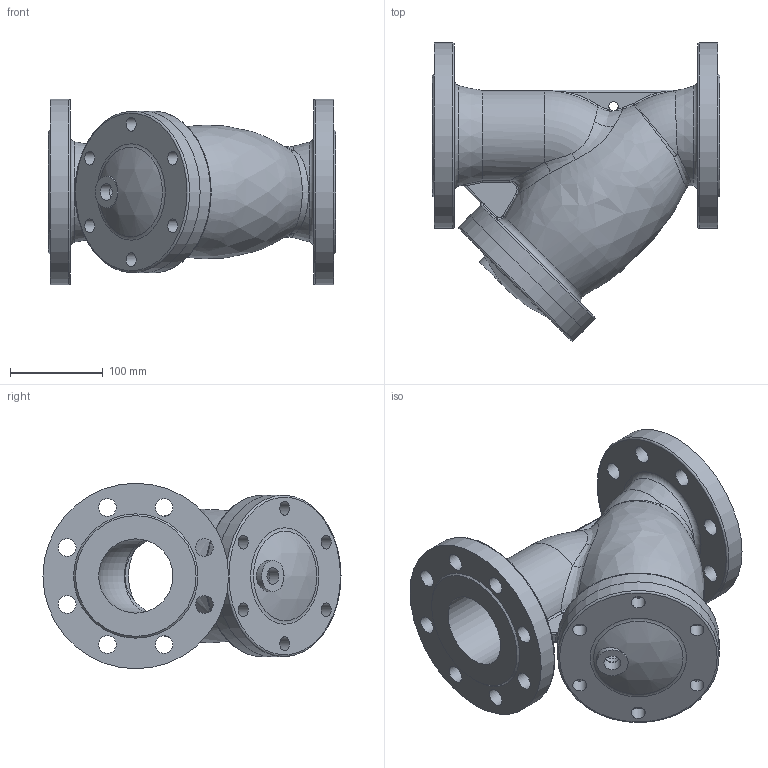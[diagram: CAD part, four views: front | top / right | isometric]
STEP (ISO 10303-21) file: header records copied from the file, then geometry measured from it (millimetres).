
FILE_DESCRIPTION(/* description */ ('STEP AP203'),/* implementation_level */ '2;1');
FILE_NAME(/* name */ '',/* time_stamp */ '2024-11-28T18:35:41+07:00',/* author */ ('Eva'),/* organization */ (''),/* preprocessor_version */ 'ST-DEVELOPER v20',/* originating_system */ 'Autodesk Inventor 2025',/* authorisation */ '');
FILE_SCHEMA (('AUTOMOTIVE_DESIGN { 1 0 10303 214 3 1 1 }'));
Length unit declared in the file: metre
Products named in the file (4): 德标过滤器80装配体; 德标过滤器80装配体(2); 80阀体; 80阀盖
Assembly tree (3 placements, depth 3):
  德标过滤器80装配体
    德标过滤器80装配体(2)
      80阀体
      80阀盖
Bounding box: 310 x 321.2 x 200 mm (x, y, z)
Volume: 2913998.1 mm3; surface area: 504914.1 mm2
Topology: 2 solids, 2 shells, 244 faces, 619 edges, 399 vertices
Faces by surface type: plane 88, cylinder 71, bspline 38, torus 21, sphere 17, cone 9
Full cylindrical faces by diameter (mm): 10 x1, 12 x6, 15 x6, 17 x1, 18 x1, 19 x16, 34 x1, 80 x4, 89 x1, 90 x1, 174 x2, 200 x2
Entity records: 15238 total; most frequent: CARTESIAN_POINT 9230, ORIENTED_EDGE 1238, DIRECTION 1207, EDGE_CURVE 619, AXIS2_PLACEMENT_3D 502, VERTEX_POINT 399, EDGE_LOOP 328, CIRCLE 283
